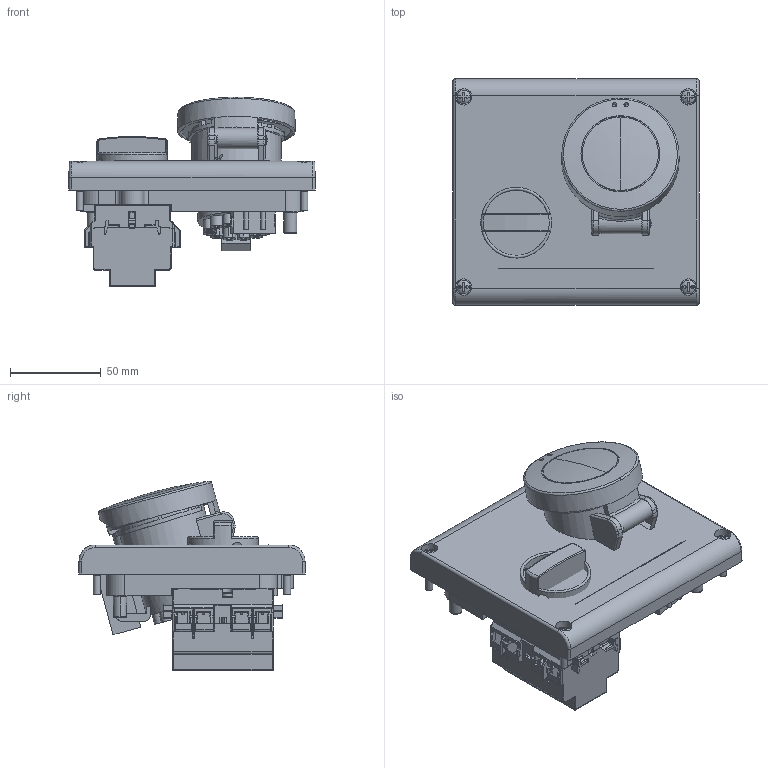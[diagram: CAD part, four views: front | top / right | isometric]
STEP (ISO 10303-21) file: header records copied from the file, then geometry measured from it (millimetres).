
FILE_DESCRIPTION(/* description */ (''),/* implementation_level */ '2;1');
FILE_NAME(/* name */ '4002901.stp',/* time_stamp */ '2016-09-22T13:21:06+02:00',/* author */ (''),/* organization */ (''),/* preprocessor_version */ 'ST-DEVELOPER v16',/* originating_system */ 'SIEMENS PLM Software NX 11.0',/* authorisation */ '');
FILE_SCHEMA (('AUTOMOTIVE_DESIGN { 1 0 10303 214 3 1 1 1 }'));
Length unit declared in the file: millimetre
Products named in the file (1): 4002901_LINKEDEXT_jt
Bounding box: 136 x 125 x 104.7 mm (x, y, z)
Surface area: 135780.6 mm2 (no closed solid volume)
Topology: 0 solids, 130 shells, 770 faces, 3419 edges, 2674 vertices
Faces by surface type: plane 345, cylinder 293, bspline 81, torus 20, cone 19, sphere 12
Full cylindrical faces by diameter (mm): 1 x2, 2.3 x1, 2.5 x4, 3.2 x10, 3.5 x2, 3.6 x2, 4 x7, 4.1 x1, 4.4 x1, 5 x1, 5.5 x2, 5.7 x2, 7 x3, 9 x4, 10 x1, 24 x1, 39 x1, 42 x1, 43.5 x1
Entity records: 48032 total; most frequent: CARTESIAN_POINT 16477, DIRECTION 5171, ORIENTED_EDGE 4469, EDGE_CURVE 3305, VERTEX_POINT 2644, LINE 1855, VECTOR 1855, AXIS2_PLACEMENT_3D 1658
